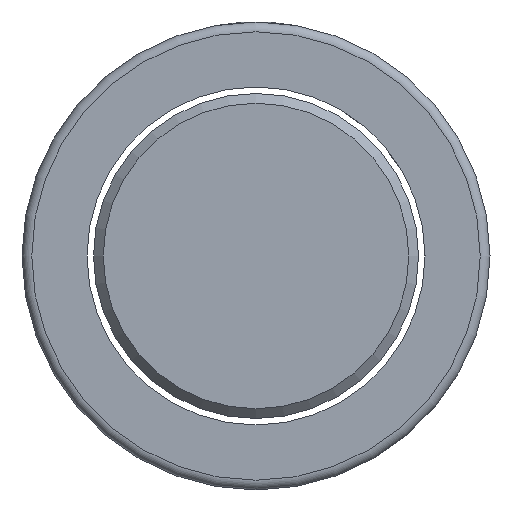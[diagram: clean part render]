
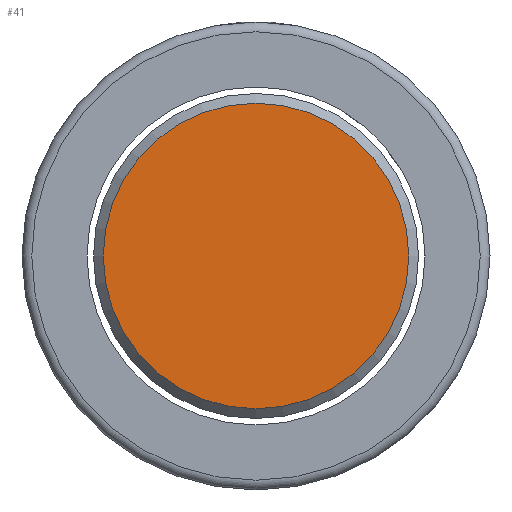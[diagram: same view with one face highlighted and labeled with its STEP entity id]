
A CAD part, left-side view. The second image highlights one B-rep face of the part: STEP entity #41.
In plain terms, the highlighted planar face has unit normal (-1, 0, 0).
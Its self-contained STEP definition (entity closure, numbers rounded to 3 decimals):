
#27 = VERTEX_POINT ( 'NONE', #299 ) ;
#41 = ADVANCED_FACE ( 'NONE', ( #930 ), #652, .F. ) ;
#263 = EDGE_LOOP ( 'NONE', ( #449 ) ) ;
#299 = CARTESIAN_POINT ( 'NONE',  ( -160., 23.5, 0. ) ) ;
#333 = DIRECTION ( 'NONE',  ( 0., 1., 0. ) ) ;
#355 = DIRECTION ( 'NONE',  ( 1., 0., 0. ) ) ;
#407 = DIRECTION ( 'NONE',  ( -1., 0., 0. ) ) ;
#434 = DIRECTION ( 'NONE',  ( 0., 1., 0. ) ) ;
#449 = ORIENTED_EDGE ( 'NONE', *, *, #530, .T. ) ;
#530 = EDGE_CURVE ( 'NONE', #27, #27, #637, .T. ) ;
#632 = CARTESIAN_POINT ( 'NONE',  ( -160., 0., 0. ) ) ;
#637 = CIRCLE ( 'NONE', #751, 23.5 ) ;
#652 = PLANE ( 'NONE',  #800 ) ;
#751 = AXIS2_PLACEMENT_3D ( 'NONE', #632, #407, #333 ) ;
#793 = CARTESIAN_POINT ( 'NONE',  ( -160., 12.5, 0. ) ) ;
#800 = AXIS2_PLACEMENT_3D ( 'NONE', #793, #355, #434 ) ;
#930 = FACE_OUTER_BOUND ( 'NONE', #263, .T. ) ;
